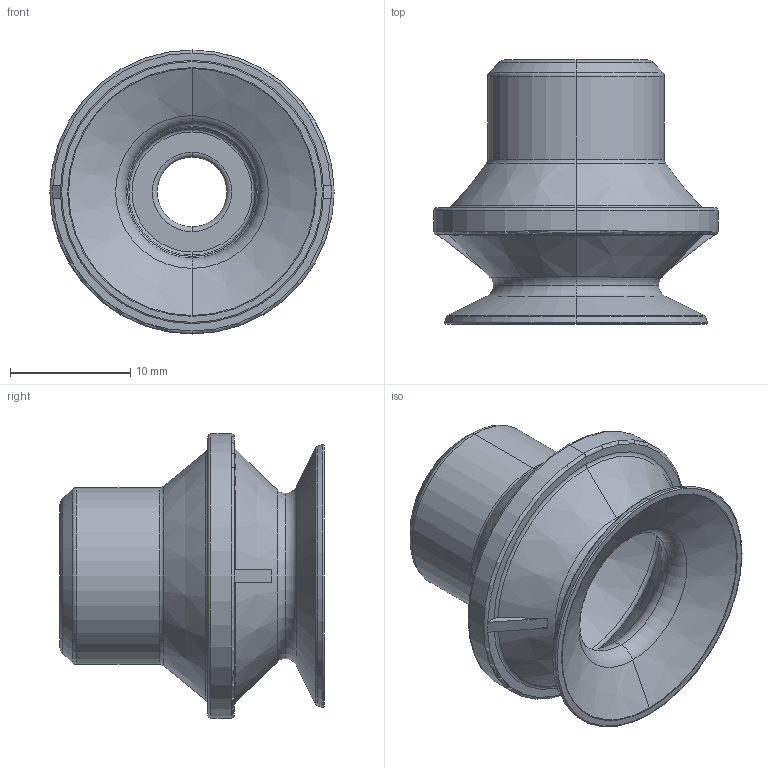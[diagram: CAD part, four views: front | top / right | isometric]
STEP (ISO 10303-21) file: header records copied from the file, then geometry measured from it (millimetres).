
FILE_DESCRIPTION (( 'STEP AP203' ), '1' );
FILE_NAME ('PBG_20B--A.STEP', '2018-09-05T13:37:38', ( '' ), ( '' ), 'SwSTEP 2.0', 'SolidWorks 2016', '' );
FILE_SCHEMA (( 'CONFIG_CONTROL_DESIGN' ));
Length unit declared in the file: millimetre
Products named in the file (1): PBG_20B--A
Bounding box: 23.65 x 22 x 23.65 mm (x, y, z)
Volume: 2505.3 mm3; surface area: 2919.6 mm2
Topology: 1 solids, 1 shells, 90 faces, 198 edges, 114 vertices
Faces by surface type: torus 37, plane 24, cone 16, cylinder 13
Entity records: 2662 total; most frequent: CARTESIAN_POINT 565, DIRECTION 475, ORIENTED_EDGE 396, AXIS2_PLACEMENT_3D 212, EDGE_CURVE 198, CIRCLE 121, VERTEX_POINT 114, EDGE_LOOP 96
